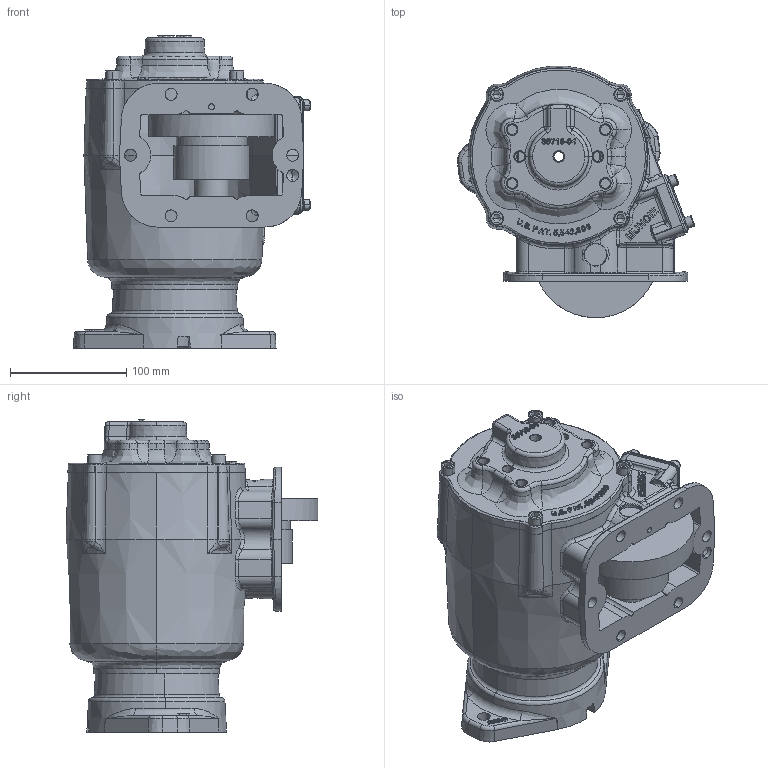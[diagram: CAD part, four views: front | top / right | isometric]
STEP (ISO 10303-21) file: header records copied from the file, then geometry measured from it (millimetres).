
FILE_DESCRIPTION (( 'STEP AP203' ), '1' );
FILE_NAME ('CS6S-A67XX-H17X.STEP', '2023-04-26T19:17:12', ( '' ), ( '' ), 'SwSTEP 2.0', 'SolidWorks 2021', '' );
FILE_SCHEMA (( 'CONFIG_CONTROL_DESIGN' ));
Length unit declared in the file: inch
Products named in the file (5): 14T38981; 10T21017; CS6S-A67XX-H17X; 14TA4819_Config1; CS6S-XXXXX-X1XX
Assembly tree (4 placements, depth 3):
  CS6S-A67XX-H17X
    CS6S-XXXXX-X1XX
    10T21017
    14TA4819_Config1
      14T38981
Bounding box: 204.45 x 216.75 x 268.87 mm (x, y, z)
Volume: 1686815.1 mm3; surface area: 428404 mm2
Topology: 12 solids, 12 shells, 2290 faces, 6034 edges, 3818 vertices
Faces by surface type: bspline 945, plane 545, cylinder 443, cone 205, torus 132, sphere 20
Entity records: 163510 total; most frequent: CARTESIAN_POINT 115252, ORIENTED_EDGE 11868, DIRECTION 6378, EDGE_CURVE 5934, VERTEX_POINT 3791, B_SPLINE_CURVE_WITH_KNOTS 3019, EDGE_LOOP 2539, ADVANCED_FACE 2290
